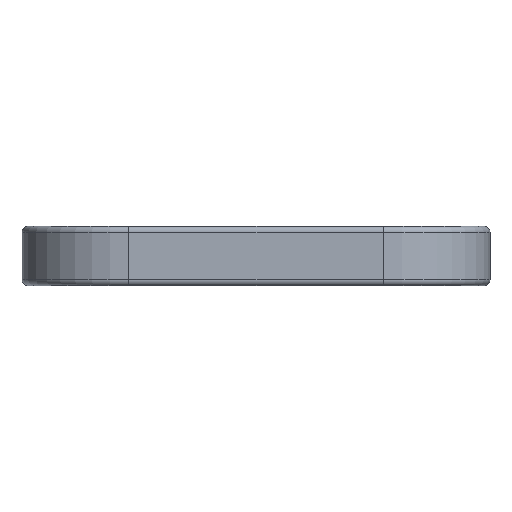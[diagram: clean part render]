
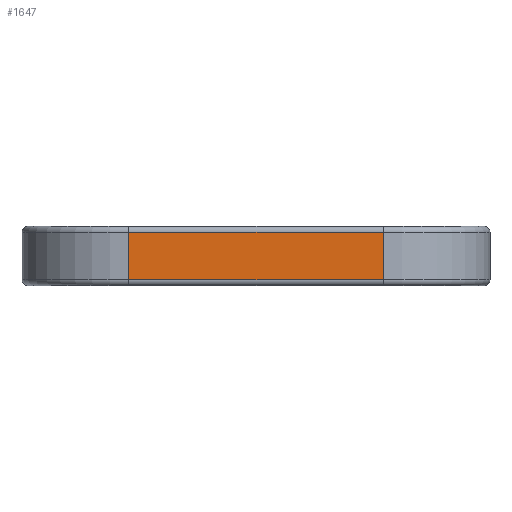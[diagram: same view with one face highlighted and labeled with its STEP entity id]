
A CAD part, left-side view. The second image highlights one B-rep face of the part: STEP entity #1647.
In plain terms, the highlighted planar face has unit normal (-1, 0, 0).
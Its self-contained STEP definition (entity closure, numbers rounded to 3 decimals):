
#114=PLANE('',#1888);
#184=FACE_OUTER_BOUND('',#283,.T.);
#283=EDGE_LOOP('',(#1342,#1343,#1344,#1345));
#413=LINE('',#2884,#482);
#417=LINE('',#2893,#486);
#418=LINE('',#2897,#487);
#419=LINE('',#2898,#488);
#482=VECTOR('',#2381,10.);
#486=VECTOR('',#2389,10.);
#487=VECTOR('',#2394,10.);
#488=VECTOR('',#2395,10.);
#785=VERTEX_POINT('',#2838);
#800=VERTEX_POINT('',#2878);
#803=VERTEX_POINT('',#2892);
#804=VERTEX_POINT('',#2896);
#1012=EDGE_CURVE('',#785,#800,#413,.T.);
#1016=EDGE_CURVE('',#800,#803,#417,.T.);
#1018=EDGE_CURVE('',#804,#785,#418,.T.);
#1019=EDGE_CURVE('',#803,#804,#419,.T.);
#1342=ORIENTED_EDGE('',*,*,#1012,.F.);
#1343=ORIENTED_EDGE('',*,*,#1018,.F.);
#1344=ORIENTED_EDGE('',*,*,#1019,.F.);
#1345=ORIENTED_EDGE('',*,*,#1016,.F.);
#1647=ADVANCED_FACE('',(#184),#114,.T.);
#1888=AXIS2_PLACEMENT_3D('',#2895,#2392,#2393);
#2381=DIRECTION('',(0.,1.,0.));
#2389=DIRECTION('',(0.,0.,1.));
#2392=DIRECTION('center_axis',(-1.,0.,0.));
#2393=DIRECTION('ref_axis',(0.,1.,0.));
#2394=DIRECTION('',(0.,0.,-1.));
#2395=DIRECTION('',(0.,-1.,0.));
#2838=CARTESIAN_POINT('',(-79.,-43.,2.));
#2878=CARTESIAN_POINT('',(-79.,43.,2.));
#2884=CARTESIAN_POINT('',(-79.,-39.5,2.));
#2892=CARTESIAN_POINT('',(-79.,43.,18.));
#2893=CARTESIAN_POINT('',(-79.,43.,20.));
#2895=CARTESIAN_POINT('Origin',(-79.,-79.,20.));
#2896=CARTESIAN_POINT('',(-79.,-43.,18.));
#2897=CARTESIAN_POINT('',(-79.,-43.,20.));
#2898=CARTESIAN_POINT('',(-79.,-39.5,18.));
